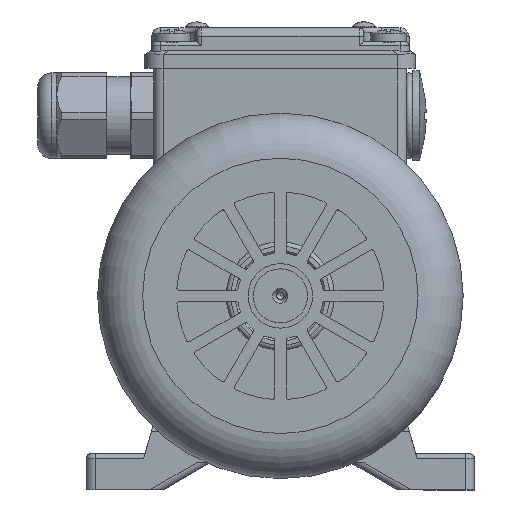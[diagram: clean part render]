
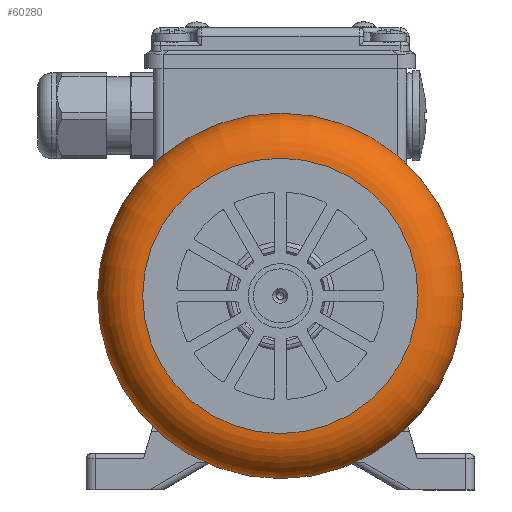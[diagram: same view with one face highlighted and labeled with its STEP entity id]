
A CAD part, left-side view. The second image highlights one B-rep face of the part: STEP entity #60280.
In plain terms, the highlighted toroidal (fillet/blend) face has major radius 30.5 mm and minor radius 10 mm.
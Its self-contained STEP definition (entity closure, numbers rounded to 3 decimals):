
#2710=TOROIDAL_SURFACE('',#65123,30.5,10.);
#3326=FACE_BOUND('',#10582,.T.);
#6885=FACE_OUTER_BOUND('',#10581,.T.);
#10581=EDGE_LOOP('',(#48206));
#10582=EDGE_LOOP('',(#48207));
#22488=CIRCLE('',#65124,40.5);
#22489=CIRCLE('',#65125,30.5);
#26898=VERTEX_POINT('',#106242);
#26899=VERTEX_POINT('',#106244);
#34509=EDGE_CURVE('',#26898,#26898,#22488,.T.);
#34510=EDGE_CURVE('',#26899,#26899,#22489,.T.);
#48206=ORIENTED_EDGE('',*,*,#34509,.T.);
#48207=ORIENTED_EDGE('',*,*,#34510,.T.);
#60280=ADVANCED_FACE('',(#6885,#3326),#2710,.T.);
#65123=AXIS2_PLACEMENT_3D('',#106241,#75712,#75713);
#65124=AXIS2_PLACEMENT_3D('',#106243,#75714,#75715);
#65125=AXIS2_PLACEMENT_3D('',#106245,#75716,#75717);
#75712=DIRECTION('center_axis',(0.,0.,-1.));
#75713=DIRECTION('ref_axis',(-1.,0.,0.));
#75714=DIRECTION('center_axis',(0.,0.,-1.));
#75715=DIRECTION('ref_axis',(-1.,0.,0.));
#75716=DIRECTION('center_axis',(0.,0.,1.));
#75717=DIRECTION('ref_axis',(-1.,0.,0.));
#106241=CARTESIAN_POINT('Origin',(0.,0.,10.));
#106242=CARTESIAN_POINT('',(40.5,0.,10.));
#106243=CARTESIAN_POINT('Origin',(0.,0.,10.));
#106244=CARTESIAN_POINT('',(30.5,0.,0.));
#106245=CARTESIAN_POINT('Origin',(0.,0.,0.));
